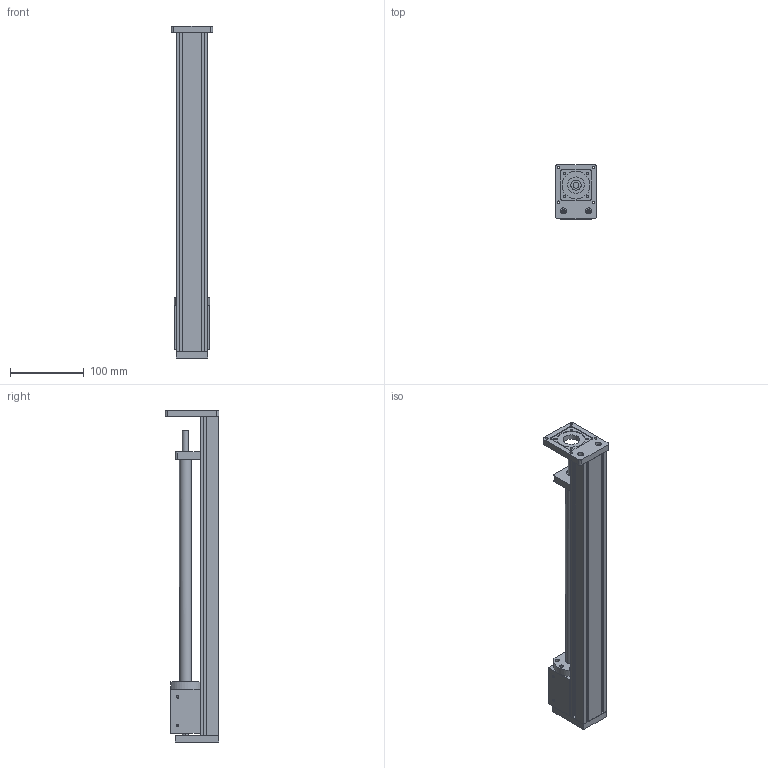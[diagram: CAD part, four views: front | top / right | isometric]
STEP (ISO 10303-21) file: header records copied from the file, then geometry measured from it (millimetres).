
FILE_DESCRIPTION(/* description */ (''),/* implementation_level */ '2;1');
FILE_NAME(/* name */ 'SGX-300行程.stp',/* time_stamp */ '2022-02-26T14:12:55+08:00',/* author */ (''),/* organization */ (''),/* preprocessor_version */ 'ST-DEVELOPER v16',/* originating_system */ 'SIEMENS PLM Software NX 10.0',/* authorisation */ '');
FILE_SCHEMA (('AP203_CONFIGURATION_CONTROLLED_3D_DESIGN_OF_MECHANICAL_PARTS_AND_ASSEMBLIES_MIM_LF { 1 0 10303 403 2 1 2}'));
Length unit declared in the file: millimetre
Products named in the file (1): Admi3E406A4Cw6li
Bounding box: 56 x 73 x 450.8 mm (x, y, z)
Volume: 519318 mm3; surface area: 231248.9 mm2
Topology: 11 solids, 11 shells, 450 faces, 1186 edges, 767 vertices
Faces by surface type: plane 211, cylinder 201, cone 36, torus 2
Full cylindrical faces by diameter (mm): 3.3 x8, 3.4 x4, 4.2 x6, 4.5 x4, 5.3 x6, 5.7 x4, 6.5 x14, 8 x7, 12 x1, 14 x1, 16 x2, 18 x1, 22 x4, 22.2 x1, 27 x1, 28 x1
Entity records: 14384 total; most frequent: CARTESIAN_POINT 3309, DIRECTION 2304, ORIENTED_EDGE 2112, EDGE_CURVE 1056, AXIS2_PLACEMENT_3D 845, VERTEX_POINT 742, EDGE_LOOP 666, LINE 614
